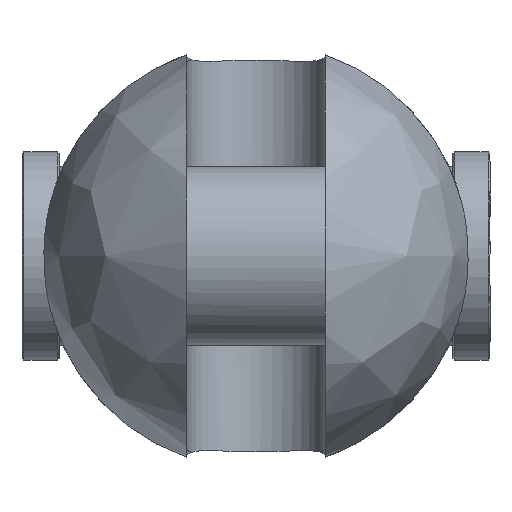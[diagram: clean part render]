
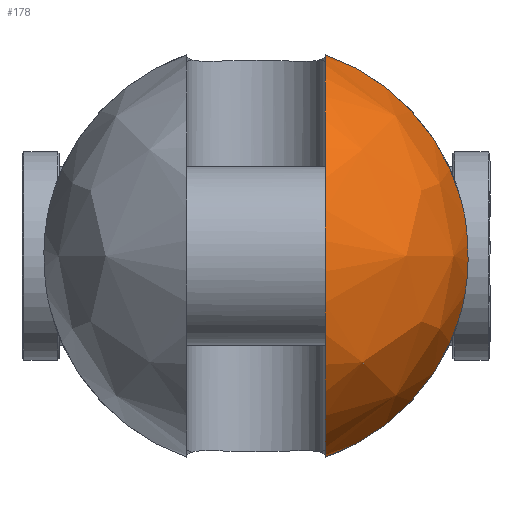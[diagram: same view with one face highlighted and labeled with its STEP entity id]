
A CAD part, left-side view. The second image highlights one B-rep face of the part: STEP entity #178.
In plain terms, the highlighted free-form (B-spline) face has degree [2, 2] with [9, 5] control points.
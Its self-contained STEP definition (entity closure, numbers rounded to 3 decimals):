
#178=ADVANCED_FACE('',(#318),#2409,.T.);
#318=FACE_OUTER_BOUND('',#478,.T.);
#478=EDGE_LOOP('',(#1189,#1190,#1191,#1192));
#1189=ORIENTED_EDGE('',*,*,#1573,.T.);
#1190=ORIENTED_EDGE('',*,*,#1597,.F.);
#1191=ORIENTED_EDGE('',*,*,#1609,.T.);
#1192=ORIENTED_EDGE('',*,*,#1589,.F.);
#1573=EDGE_CURVE('',#2242,#2241,#1976,.T.);
#1589=EDGE_CURVE('',#2242,#2254,#1986,.T.);
#1597=EDGE_CURVE('',#2261,#2241,#1987,.T.);
#1609=EDGE_CURVE('',#2261,#2254,#1782,.T.);
#1782=B_SPLINE_CURVE_WITH_KNOTS('',3,(#6111,#6112,#6113,#6114,#6115,#6116,
#6117,#6118,#6119,#6120,#6121,#6122,#6123,#6124),.UNSPECIFIED.,.F.,.F.,
(4,2,2,2,2,2,4),(0.,3.482,9.529,15.576,
21.623,27.67,31.152),.UNSPECIFIED.);
#1976=(
BOUNDED_CURVE()
B_SPLINE_CURVE(2,(#5879,#5880,#5881,#5882,#5883),.UNSPECIFIED.,.F.,.F.)
B_SPLINE_CURVE_WITH_KNOTS((3,2,3),(-169.377,-84.688,
0.),.UNSPECIFIED.)
CURVE()
GEOMETRIC_REPRESENTATION_ITEM()
RATIONAL_B_SPLINE_CURVE((1.,0.707,1.,0.707,1.))
REPRESENTATION_ITEM('')
);
#1986=(
BOUNDED_CURVE()
B_SPLINE_CURVE(2,(#5981,#5982,#5983),.UNSPECIFIED.,.F.,.F.)
B_SPLINE_CURVE_WITH_KNOTS((3,3),(0.,55.829),.UNSPECIFIED.)
CURVE()
GEOMETRIC_REPRESENTATION_ITEM()
RATIONAL_B_SPLINE_CURVE((1.,0.882,1.))
REPRESENTATION_ITEM('')
);
#1987=(
BOUNDED_CURVE()
B_SPLINE_CURVE(2,(#6038,#6039,#6040),.UNSPECIFIED.,.F.,.F.)
B_SPLINE_CURVE_WITH_KNOTS((3,3),(0.,55.829),.UNSPECIFIED.)
CURVE()
GEOMETRIC_REPRESENTATION_ITEM()
RATIONAL_B_SPLINE_CURVE((1.,0.882,1.))
REPRESENTATION_ITEM('')
);
#2241=VERTEX_POINT('',#5739);
#2242=VERTEX_POINT('',#5740);
#2254=VERTEX_POINT('',#5752);
#2261=VERTEX_POINT('',#5759);
#2409=(
BOUNDED_SURFACE()
B_SPLINE_SURFACE(2,2,((#5453,#5454,#5455,#5456,#5457),(#5458,#5459,#5460,
#5461,#5462),(#5463,#5464,#5465,#5466,#5467),(#5468,#5469,#5470,#5471,#5472),
(#5473,#5474,#5475,#5476,#5477),(#5478,#5479,#5480,#5481,#5482),(#5483,
#5484,#5485,#5486,#5487),(#5488,#5489,#5490,#5491,#5492),(#5493,#5494,#5495,
#5496,#5497)),.UNSPECIFIED.,.T.,.F.,.F.)
B_SPLINE_SURFACE_WITH_KNOTS((3,2,2,2,3),(3,2,3),(0.,89.535,179.071,
268.606,358.142),(0.,89.535,179.071),
 .UNSPECIFIED.)
GEOMETRIC_REPRESENTATION_ITEM()
RATIONAL_B_SPLINE_SURFACE(((1.,0.707,1.,0.707,1.),
(0.707,0.5,0.707,0.5,0.707),(1.,0.707,
1.,0.707,1.),(0.707,0.5,0.707,0.5,0.707),
(1.,0.707,1.,0.707,1.),(0.707,0.5,0.707,
0.5,0.707),(1.,0.707,1.,0.707,1.),(0.707,
0.5,0.707,0.5,0.707),(1.,0.707,1.,0.707,
1.)))
REPRESENTATION_ITEM('')
SURFACE()
);
#5453=CARTESIAN_POINT('',(-82.,0.,0.));
#5454=CARTESIAN_POINT('',(-82.,57.,0.));
#5455=CARTESIAN_POINT('',(-25.,57.,0.));
#5456=CARTESIAN_POINT('',(32.,57.,0.));
#5457=CARTESIAN_POINT('',(32.,0.,0.));
#5458=CARTESIAN_POINT('',(-82.,0.,0.));
#5459=CARTESIAN_POINT('',(-82.,57.,57.));
#5460=CARTESIAN_POINT('',(-25.,57.,57.));
#5461=CARTESIAN_POINT('',(32.,57.,57.));
#5462=CARTESIAN_POINT('',(32.,0.,0.));
#5463=CARTESIAN_POINT('',(-82.,0.,0.));
#5464=CARTESIAN_POINT('',(-82.,0.,57.));
#5465=CARTESIAN_POINT('',(-25.,0.,57.));
#5466=CARTESIAN_POINT('',(32.,0.,57.));
#5467=CARTESIAN_POINT('',(32.,0.,0.));
#5468=CARTESIAN_POINT('',(-82.,0.,0.));
#5469=CARTESIAN_POINT('',(-82.,-57.,57.));
#5470=CARTESIAN_POINT('',(-25.,-57.,57.));
#5471=CARTESIAN_POINT('',(32.,-57.,57.));
#5472=CARTESIAN_POINT('',(32.,0.,0.));
#5473=CARTESIAN_POINT('',(-82.,0.,0.));
#5474=CARTESIAN_POINT('',(-82.,-57.,0.));
#5475=CARTESIAN_POINT('',(-25.,-57.,0.));
#5476=CARTESIAN_POINT('',(32.,-57.,0.));
#5477=CARTESIAN_POINT('',(32.,0.,0.));
#5478=CARTESIAN_POINT('',(-82.,0.,0.));
#5479=CARTESIAN_POINT('',(-82.,-57.,-57.));
#5480=CARTESIAN_POINT('',(-25.,-57.,-57.));
#5481=CARTESIAN_POINT('',(32.,-57.,-57.));
#5482=CARTESIAN_POINT('',(32.,0.,0.));
#5483=CARTESIAN_POINT('',(-82.,0.,0.));
#5484=CARTESIAN_POINT('',(-82.,0.,-57.));
#5485=CARTESIAN_POINT('',(-25.,0.,-57.));
#5486=CARTESIAN_POINT('',(32.,0.,-57.));
#5487=CARTESIAN_POINT('',(32.,0.,0.));
#5488=CARTESIAN_POINT('',(-82.,0.,0.));
#5489=CARTESIAN_POINT('',(-82.,57.,-57.));
#5490=CARTESIAN_POINT('',(-25.,57.,-57.));
#5491=CARTESIAN_POINT('',(32.,57.,-57.));
#5492=CARTESIAN_POINT('',(32.,0.,0.));
#5493=CARTESIAN_POINT('',(-82.,0.,0.));
#5494=CARTESIAN_POINT('',(-82.,57.,0.));
#5495=CARTESIAN_POINT('',(-25.,57.,0.));
#5496=CARTESIAN_POINT('',(32.,57.,0.));
#5497=CARTESIAN_POINT('',(32.,0.,0.));
#5739=CARTESIAN_POINT('',(-25.,-18.5,-53.914));
#5740=CARTESIAN_POINT('',(-25.,-18.5,53.914));
#5752=CARTESIAN_POINT('',(-25.,-55.073,14.697));
#5759=CARTESIAN_POINT('',(-25.,-55.073,-14.697));
#5879=CARTESIAN_POINT('',(-25.,-18.5,53.914));
#5880=CARTESIAN_POINT('',(-78.914,-18.5,53.914));
#5881=CARTESIAN_POINT('',(-78.914,-18.5,0.));
#5882=CARTESIAN_POINT('',(-78.914,-18.5,-53.914));
#5883=CARTESIAN_POINT('',(-25.,-18.5,-53.914));
#5981=CARTESIAN_POINT('',(-25.,-18.5,53.914));
#5982=CARTESIAN_POINT('',(-25.,-47.239,44.053));
#5983=CARTESIAN_POINT('',(-25.,-55.073,14.697));
#6038=CARTESIAN_POINT('',(-25.,-55.073,-14.697));
#6039=CARTESIAN_POINT('',(-25.,-47.239,-44.053));
#6040=CARTESIAN_POINT('',(-25.,-18.5,-53.914));
#6111=CARTESIAN_POINT('',(-25.,-55.073,-14.697));
#6112=CARTESIAN_POINT('',(-25.579,-55.336,-13.712));
#6113=CARTESIAN_POINT('',(-26.105,-55.572,-12.684));
#6114=CARTESIAN_POINT('',(-27.372,-56.14,-9.787));
#6115=CARTESIAN_POINT('',(-27.989,-56.414,-7.85));
#6116=CARTESIAN_POINT('',(-28.803,-56.773,-3.924));
#6117=CARTESIAN_POINT('',(-29.,-56.859,-1.935));
#6118=CARTESIAN_POINT('',(-29.,-56.859,1.935));
#6119=CARTESIAN_POINT('',(-28.803,-56.773,3.924));
#6120=CARTESIAN_POINT('',(-27.989,-56.414,7.85));
#6121=CARTESIAN_POINT('',(-27.372,-56.14,9.787));
#6122=CARTESIAN_POINT('',(-26.105,-55.572,12.684));
#6123=CARTESIAN_POINT('',(-25.579,-55.336,13.712));
#6124=CARTESIAN_POINT('',(-25.,-55.073,14.697));
